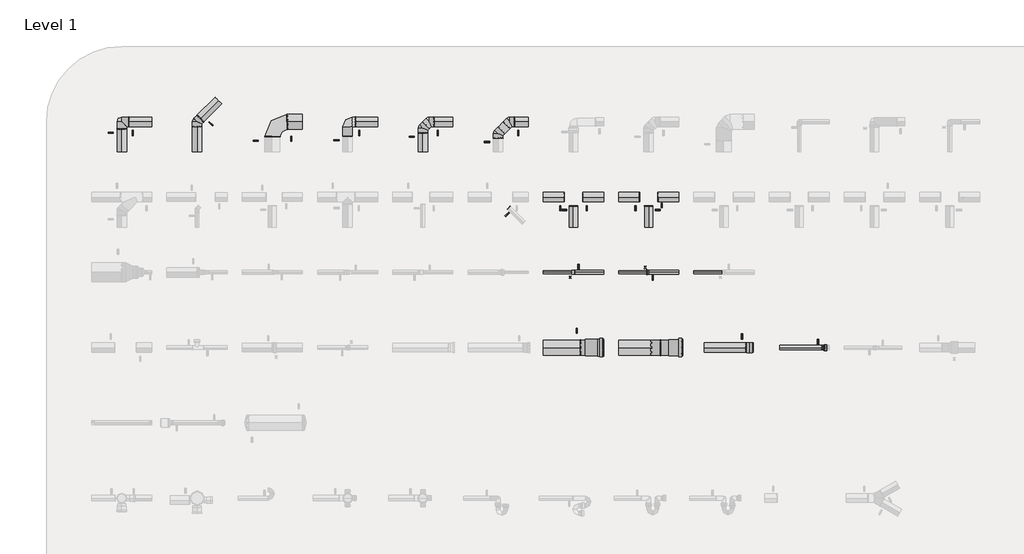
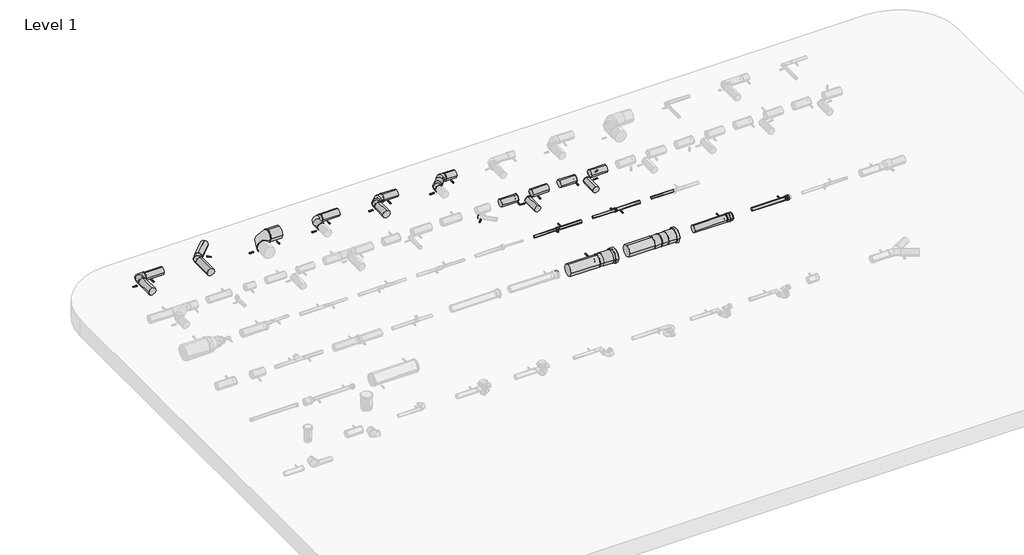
# One storey, part 4 of 6: 42 pipe fittings, 24 pipe segments.
"""IFC4 building model written with IfcOpenShell, lengths in millimetres."""

from ifc_helpers import new_model, si_unit, point, frame, frame_2d, origin, place, context, project, spatial, circle_curve, trimmed, segment, composite_curve, outline, extrude, transform, mapped, element, save
from components import pipe_fitting_c029aed5, type_2_pe80_8ce7701b, var_834311a2, var_c9dff895, var_6aed6b33, var_5b2d795d, var_edb43545, nested_do_not_use_acc8ecbe, nested_do_not_use_365d6919, nested_do_not_use_0367c6a2, nested_do_not_use_355ab53d, nested_do_not_use_e207d9e7, nested_do_not_use_0e8bf35e, nested_do_not_use_e36be62c, nested_do_not_use_2b7e7ef3, welded_7e5780db, welded_b2ff7ccb, welded_75b1cb19, welded_dc74d5dd, welded_ac007b25

model = new_model("IFC4")

# Units and contexts
model_context = context("Model", 3, world=origin())
ifc_project = project(units=[si_unit("LENGTHUNIT", "METRE", prefix="MILLI")], contexts=[model_context])

# Site, building, storey
site = spatial("IfcSite", under=ifc_project)
building = spatial("IfcBuilding", under=site)
storey = spatial("IfcBuildingStorey", under=building, Name="Level 1", Elevation=0.0)

# Pipe fittings
placement = place(None, origin())
pipe_fitting_shape = pipe_fitting_c029aed5(model_context)
element("IfcPipeFitting", 1, ObjectType="NLRS_52_PIF_UN_HDPE weld_Akatherm : ringseal or non-welded", at=placement, inside=storey, context=model_context, shape_type="MappedRepresentation", body=[
    mapped(pipe_fitting_shape, transform((8660.9781064, 18273.6274824, 200.0), x_axis=(-1.0, 0.0, 0.0), y_axis=(0.0, 1.0, 0.0), z_axis=(0.0, 0.0, -1.0))),
])
element("IfcPipeFitting", 2, ObjectType="NLRS_52_PIF_UN_HDPE weld_Akatherm : ringseal or non-welded", at=placement, inside=storey, context=model_context, shape_type="MappedRepresentation", body=[
    mapped(pipe_fitting_shape, transform((9657.7281064, 18273.6274824, 200.0), x_axis=(-1.0, 0.0, 0.0), y_axis=(0.0, -1.0, 0.0), z_axis=(0.0, 0.0, 1.0))),
])
type_2_pe80_shape = type_2_pe80_8ce7701b(model_context)
element("IfcPipeFitting", 3, ObjectType="NLRS_52_PIF_UN_HDPE bend long leg_Akatherm : Type 2 (PE80)", at=placement, inside=storey, context=model_context, shape_type="MappedRepresentation", body=[
    mapped(type_2_pe80_shape, transform((5659.9781064, 20273.6274824, 200.0), x_axis=(-1.0, 0.0, 0.0), y_axis=(0.0, -1.0, 0.0), z_axis=(0.0, 0.0, 1.0))),
])
var_shape = var_834311a2(model_context)
element("IfcPipeFitting", 4, ObjectType="NLRS_52_PIF_UN_HDPE 2x 45º bend_Akatherm : Var.", at=placement, inside=storey, context=model_context, shape_type="MappedRepresentation", body=[
    mapped(var_shape, transform((7659.9781064, 20273.6274824, 200.0), x_axis=(-1.0, 0.0, 0.0), y_axis=(0.0, -1.0, 0.0), z_axis=(0.0, 0.0, 1.0))),
])
var_2_shape = var_c9dff895(model_context)
element("IfcPipeFitting", 5, ObjectType="NLRS_52_PIF_UN_HDPE double flange bushing_Akatherm : Var.", at=placement, inside=storey, context=model_context, shape_type="MappedRepresentation", body=[
    mapped(var_2_shape, transform((10998.1544434, 17273.6274824, 200.0), x_axis=(1.0, 0.0, 0.0), y_axis=(0.0, 1.0, 0.0), z_axis=(0.0, 0.0, 1.0))),
])
var_3_shape = var_6aed6b33(model_context)
element("IfcPipeFitting", 6, ObjectType="NLRS_52_PIF_UN_HDPE expansion socket 200 with anchor point_Akatherm : Var.", at=placement, inside=storey, context=model_context, shape_type="MappedRepresentation", body=[
    mapped(var_3_shape, transform((9787.9781064, 17273.6274824, 200.0), x_axis=(1.0, 0.0, 0.0), y_axis=(0.0, 1.0, 0.0), z_axis=(0.0, 0.0, 1.0))),
])
var_4_shape = var_5b2d795d(model_context)
element("IfcPipeFitting", 7, ObjectType="NLRS_52_PIF_UN_HDPE expansion socket_Akatherm : Var.", at=placement, inside=storey, context=model_context, shape_type="MappedRepresentation", body=[
    mapped(var_4_shape, transform((8793.6781064, 17273.6274824, 200.0), x_axis=(1.0, 0.0, 0.0), y_axis=(0.0, 1.0, 0.0), z_axis=(0.0, 0.0, 1.0))),
])
var_5_shape = var_edb43545(model_context)
element("IfcPipeFitting", 8, ObjectType="NLRS_52_PIF_UN_HDPE urinal connector socket_Akatherm : Var.", at=placement, inside=storey, context=model_context, shape_type="MappedRepresentation", body=[
    mapped(var_5_shape, transform((9660.9781064, 18273.6274824, 200.0), x_axis=(1.0, 0.0, 0.0), y_axis=(0.0, 1.0, 0.0), z_axis=(0.0, 0.0, 1.0))),
])
nested_do_not_use_shape = nested_do_not_use_acc8ecbe(model_context)
element("IfcPipeFitting", 9, ObjectType="NLRS_52_PIF_UN_HDPE bend for bend assembly -SH_Akatherm : nested, do not use", at=placement, inside=storey, context=model_context, shape_type="MappedRepresentation", body=[
    mapped(nested_do_not_use_shape, transform((4659.9781064, 20273.6274824, 200.0), x_axis=(-1.0, 0.0, 0.0), y_axis=(0.0, -1.0, 0.0), z_axis=(0.0, 0.0, 1.0))),
])
nested_do_not_use_2_shape = nested_do_not_use_365d6919(model_context)
element("IfcPipeFitting", 10, ObjectType="NLRS_52_PIF_UN_HDPE elbow for bend assembly -SH_Akatherm : nested, do not use", at=placement, inside=storey, context=model_context, shape_type="MappedRepresentation", body=[
    mapped(nested_do_not_use_2_shape, transform((2659.9781064, 20273.6274824, 200.0), x_axis=(-1.0, 0.0, 0.0), y_axis=(0.0, -1.0, 0.0), z_axis=(0.0, 0.0, 1.0))),
])
nested_do_not_use_3_shape = nested_do_not_use_0367c6a2(model_context)
element("IfcPipeFitting", 11, ObjectType="NLRS_52_PIF_UN_HDPE elbow for bend assembly -SH_Akatherm : nested, do not use", at=placement, inside=storey, context=model_context, shape_type="MappedRepresentation", body=[
    mapped(nested_do_not_use_3_shape, transform((3659.9781064, 20273.6274824, 200.0), x_axis=(-0.7071067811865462, -0.7071067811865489, 0.0), y_axis=(0.7071067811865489, -0.7071067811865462, 0.0), z_axis=(0.0, 0.0, 1.0))),
])
element("IfcPipeFitting", 12, ObjectType="NLRS_52_PIF_UN_HDPE elbow for bend assembly -SH_Akatherm : nested, do not use", at=placement, inside=storey, context=model_context, shape_type="MappedRepresentation", body=[
    mapped(nested_do_not_use_3_shape, transform((6745.962291, 20273.6274824, 200.0), x_axis=(-1.0, 0.0, 0.0), y_axis=(0.0, -1.0, 0.0), z_axis=(0.0, 0.0, 1.0))),
])
element("IfcPipeFitting", 13, ObjectType="NLRS_52_PIF_UN_HDPE elbow for bend assembly -SH_Akatherm : nested, do not use", at=placement, inside=storey, context=model_context, shape_type="MappedRepresentation", body=[
    mapped(nested_do_not_use_3_shape, transform((7816.6729691, 20273.6274824, 200.0), x_axis=(-1.0, 0.0, 0.0), y_axis=(0.0, -1.0, 0.0), z_axis=(0.0, 0.0, 1.0))),
])
nested_do_not_use_4_shape = nested_do_not_use_355ab53d(model_context)
element("IfcPipeFitting", 14, ObjectType="NLRS_52_PIF_UN_HDPE elbow for bend assembly -SH_Akatherm : nested, do not use", at=placement, inside=storey, context=model_context, shape_type="MappedRepresentation", body=[
    mapped(nested_do_not_use_4_shape, transform((6659.9781064, 20187.6432978, 200.0), x_axis=(0.0, 1.0, 0.0), y_axis=(-1.0, 0.0, 0.0), z_axis=(0.0, 0.0, 1.0))),
])
element("IfcPipeFitting", 15, ObjectType="NLRS_52_PIF_UN_HDPE elbow for bend assembly -SH_Akatherm : nested, do not use", at=placement, inside=storey, context=model_context, shape_type="MappedRepresentation", body=[
    mapped(nested_do_not_use_4_shape, transform((7659.9781064, 20116.9326197, 200.0), x_axis=(0.0, 1.0, 0.0), y_axis=(-1.0, 0.0, 0.0), z_axis=(0.0, 0.0, 1.0))),
])
nested_do_not_use_5_shape = nested_do_not_use_e207d9e7(model_context)
element("IfcPipeFitting", 16, ObjectType="NLRS_52_PIF_UN_HDPE protective cap for plugin socket -SH_Akatherm : nested, do not use", at=placement, inside=storey, context=model_context, shape_type="MappedRepresentation", body=[
    mapped(nested_do_not_use_5_shape, transform((8077.9781064, 17273.6274824, 200.0), x_axis=(1.0, 0.0, 0.0), y_axis=(0.0, 1.0, 0.0), z_axis=(0.0, 0.0, 1.0))),
])
nested_do_not_use_6_shape = nested_do_not_use_0e8bf35e(model_context)
element("IfcPipeFitting", 17, ObjectType="NLRS_52_PIF_UN_HDPE rubber sleeve -SH_Akatherm : nested, do not use", at=placement, inside=storey, context=model_context, shape_type="MappedRepresentation", body=[
    mapped(nested_do_not_use_6_shape, transform((8648.9781064, 18273.6274824, 200.0), x_axis=(-1.0, 0.0, 0.0), y_axis=(0.0, -1.0, 0.0), z_axis=(0.0, 0.0, 1.0))),
])
nested_do_not_use_7_shape = nested_do_not_use_e36be62c(model_context)
element("IfcPipeFitting", 18, ObjectType="NLRS_52_PIF_UN_HDPE screw coupler -SH_Akatherm : nested, do not use", at=placement, inside=storey, context=model_context, shape_type="MappedRepresentation", body=[
    mapped(nested_do_not_use_7_shape, transform((11992.6544434, 17273.6274824, 200.0), x_axis=(1.0, 0.0, 0.0), y_axis=(0.0, 1.0, 0.0), z_axis=(0.0, 0.0, 1.0))),
])
nested_do_not_use_8_shape = nested_do_not_use_2b7e7ef3(model_context)
element("IfcPipeFitting", 19, ObjectType="NLRS_52_PIF_UN_HDPE trap connecting socket -SH_Akatherm : nested, do not use", at=placement, inside=storey, context=model_context, shape_type="MappedRepresentation", body=[
    mapped(nested_do_not_use_8_shape, transform((8659.9781064, 18273.6274824, 200.0), x_axis=(1.0, 0.0, 0.0), y_axis=(0.0, 1.0, 0.0), z_axis=(0.0, 0.0, 1.0))),
])
welded_shape = welded_7e5780db(model_context)
element("IfcPipeFitting", 20, ObjectType="NLRS_52_PIF_UN_HDPE weld_Akatherm : welded", at=placement, inside=storey, context=model_context, shape_type="MappedRepresentation", body=[
    mapped(welded_shape, transform((2755.7781064, 20273.6274824, 200.0), x_axis=(1.0, 0.0, 0.0), y_axis=(0.0, 1.0, 0.0), z_axis=(0.0, 0.0, 1.0))),
])
element("IfcPipeFitting", 21, ObjectType="NLRS_52_PIF_UN_HDPE weld_Akatherm : welded", at=placement, inside=storey, context=model_context, shape_type="MappedRepresentation", body=[
    mapped(welded_shape, transform((2659.9781064, 20177.8274824, 200.0), x_axis=(0.0, -1.0, 0.0), y_axis=(1.0, 0.0, 0.0), z_axis=(0.0, 0.0, 1.0))),
])
element("IfcPipeFitting", 22, ObjectType="NLRS_52_PIF_UN_HDPE weld_Akatherm : welded", at=placement, inside=storey, context=model_context, shape_type="MappedRepresentation", body=[
    mapped(welded_shape, transform((6806.762291, 20273.6274824, 200.0), x_axis=(1.0, 0.0, 0.0), y_axis=(0.0, 1.0, 0.0), z_axis=(0.0, 0.0, 1.0))),
])
element("IfcPipeFitting", 23, ObjectType="NLRS_52_PIF_UN_HDPE weld_Akatherm : welded", at=placement, inside=storey, context=model_context, shape_type="MappedRepresentation", body=[
    mapped(welded_shape, transform((6659.9781064, 20126.8432978, 200.0), x_axis=(0.0, -1.0, 0.0), y_axis=(1.0, 0.0, 0.0), z_axis=(0.0, 0.0, 1.0))),
])
element("IfcPipeFitting", 24, ObjectType="NLRS_52_PIF_UN_HDPE weld_Akatherm : welded", at=placement, inside=storey, context=model_context, shape_type="MappedRepresentation", body=[
    mapped(welded_shape, transform((7877.4729691, 20273.6274824, 200.0), x_axis=(1.0, 0.0, 0.0), y_axis=(0.0, 1.0, 0.0), z_axis=(0.0, 0.0, 1.0))),
])
element("IfcPipeFitting", 25, ObjectType="NLRS_52_PIF_UN_HDPE weld_Akatherm : welded", at=placement, inside=storey, context=model_context, shape_type="MappedRepresentation", body=[
    mapped(welded_shape, transform((7659.9781064, 20056.1326197, 200.0), x_axis=(0.0, -1.0, 0.0), y_axis=(1.0, 0.0, 0.0), z_axis=(0.0, 0.0, 1.0))),
])
element("IfcPipeFitting", 26, ObjectType="NLRS_52_PIF_UN_HDPE weld_Akatherm : welded", at=placement, inside=storey, context=model_context, shape_type="MappedRepresentation", body=[
    mapped(welded_shape, transform((5765.7781064, 20273.6274824, 200.0), x_axis=(1.0, 0.0, 0.0), y_axis=(0.0, 1.0, 0.0), z_axis=(0.0, 0.0, 1.0))),
])
element("IfcPipeFitting", 27, ObjectType="NLRS_52_PIF_UN_HDPE weld_Akatherm : welded", at=placement, inside=storey, context=model_context, shape_type="MappedRepresentation", body=[
    mapped(welded_shape, transform((5659.9781064, 20077.8274824, 200.0), x_axis=(0.0, -1.0, 0.0), y_axis=(1.0, 0.0, 0.0), z_axis=(0.0, 0.0, 1.0))),
])
element("IfcPipeFitting", 28, ObjectType="NLRS_52_PIF_UN_HDPE weld_Akatherm : welded", at=placement, inside=storey, context=model_context, shape_type="MappedRepresentation", body=[
    mapped(welded_shape, transform((8785.7781064, 19273.6274824, 200.0), x_axis=(1.0, 0.0, 0.0), y_axis=(0.0, 1.0, 0.0), z_axis=(0.0, 0.0, 1.0))),
])
element("IfcPipeFitting", 29, ObjectType="NLRS_52_PIF_UN_HDPE weld_Akatherm : welded", at=placement, inside=storey, context=model_context, shape_type="MappedRepresentation", body=[
    mapped(welded_shape, transform((8534.1781064, 19273.6274824, 200.0), x_axis=(-1.0, 0.0, 0.0), y_axis=(0.0, 1.0, 0.0), z_axis=(0.0, 0.0, -1.0))),
])
element("IfcPipeFitting", 30, ObjectType="NLRS_52_PIF_UN_HDPE weld_Akatherm : welded", at=placement, inside=storey, context=model_context, shape_type="MappedRepresentation", body=[
    mapped(welded_shape, transform((9534.1781064, 19273.6274824, 200.0), x_axis=(-1.0, 0.0, 0.0), y_axis=(0.0, 1.0, 0.0), z_axis=(0.0, 0.0, -1.0))),
])
element("IfcPipeFitting", 31, ObjectType="NLRS_52_PIF_UN_HDPE weld_Akatherm : welded", at=placement, inside=storey, context=model_context, shape_type="MappedRepresentation", body=[
    mapped(welded_shape, transform((9785.7781064, 19273.6274824, 200.0), x_axis=(1.0, 0.0, 0.0), y_axis=(0.0, 0.7071067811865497, -0.7071067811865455), z_axis=(0.0, 0.7071067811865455, 0.7071067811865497))),
])
element("IfcPipeFitting", 32, ObjectType="NLRS_52_PIF_UN_HDPE weld_Akatherm : welded", at=placement, inside=storey, context=model_context, shape_type="MappedRepresentation", body=[
    mapped(welded_shape, transform((10950.6044434, 17273.6274824, 200.0), x_axis=(-1.0, 0.0, 0.0), y_axis=(0.0, -1.0, 0.0), z_axis=(0.0, 0.0, 1.0))),
])
element("IfcPipeFitting", 33, ObjectType="NLRS_52_PIF_UN_HDPE weld_Akatherm : welded", at=placement, inside=storey, context=model_context, shape_type="MappedRepresentation", body=[
    mapped(welded_shape, transform((3702.9701987, 20316.6195747, 200.0), x_axis=(0.7071067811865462, 0.7071067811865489, 0.0), y_axis=(-0.7071067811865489, 0.7071067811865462, 0.0), z_axis=(0.0, 0.0, 1.0))),
])
welded_2_shape = welded_b2ff7ccb(model_context)
element("IfcPipeFitting", 34, ObjectType="NLRS_52_PIF_UN_HDPE weld_Akatherm : welded", at=placement, inside=storey, context=model_context, shape_type="MappedRepresentation", body=[
    mapped(welded_2_shape, transform((4859.2781064, 20273.6274824, 200.0), x_axis=(1.0, 0.0, 0.0), y_axis=(0.0, 1.0, 0.0), z_axis=(0.0, 0.0, 1.0))),
])
element("IfcPipeFitting", 35, ObjectType="NLRS_52_PIF_UN_HDPE weld_Akatherm : welded", at=placement, inside=storey, context=model_context, shape_type="MappedRepresentation", body=[
    mapped(welded_2_shape, transform((4659.9781064, 20074.3274824, 200.0), x_axis=(0.0, -1.0, 0.0), y_axis=(1.0, 0.0, 0.0), z_axis=(0.0, 0.0, 1.0))),
])
element("IfcPipeFitting", 36, ObjectType="NLRS_52_PIF_UN_HDPE weld_Akatherm : welded", at=placement, inside=storey, context=model_context, shape_type="MappedRepresentation", body=[
    mapped(welded_2_shape, transform((8753.1781064, 17273.6274824, 200.0), x_axis=(-1.0, 0.0, 0.0), y_axis=(0.0, -1.0, 0.0), z_axis=(0.0, 0.0, 1.0))),
])
welded_3_shape = welded_75b1cb19(model_context)
element("IfcPipeFitting", 37, ObjectType="NLRS_52_PIF_UN_HDPE weld_Akatherm : welded", at=placement, inside=storey, context=model_context, shape_type="MappedRepresentation", body=[
    mapped(welded_3_shape, transform((8677.2781064, 18273.6274824, 200.0), x_axis=(1.0, 0.0, 0.0), y_axis=(0.0, -1.0, 0.0), z_axis=(0.0, 0.0, -1.0))),
])
element("IfcPipeFitting", 38, ObjectType="NLRS_52_PIF_UN_HDPE weld_Akatherm : welded", at=placement, inside=storey, context=model_context, shape_type="MappedRepresentation", body=[
    mapped(welded_3_shape, transform((9662.5281064, 18273.6274824, 200.0), x_axis=(1.0, 0.0, 0.0), y_axis=(0.0, 1.0, 0.0), z_axis=(0.0, 0.0, 1.0))),
])
welded_4_shape = welded_dc74d5dd(model_context)
element("IfcPipeFitting", 39, ObjectType="NLRS_52_PIF_UN_HDPE weld_Akatherm : welded", at=placement, inside=storey, context=model_context, shape_type="MappedRepresentation", body=[
    mapped(welded_4_shape, transform((7800.1973811, 19133.4082077, 200.0), x_axis=(0.7071067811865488, -0.7071067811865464, 0.0), y_axis=(0.7071067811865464, 0.7071067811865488, 0.0), z_axis=(0.0, 0.0, 1.0))),
])
element("IfcPipeFitting", 40, ObjectType="NLRS_52_PIF_UN_HDPE weld_Akatherm : welded", at=placement, inside=storey, context=model_context, shape_type="MappedRepresentation", body=[
    mapped(welded_4_shape, transform((11958.8544434, 17273.6274824, 200.0), x_axis=(-1.0, 0.0, 0.0), y_axis=(0.0, -1.0, 0.0), z_axis=(0.0, 0.0, 1.0))),
])
welded_5_shape = welded_ac007b25(model_context)
element("IfcPipeFitting", 41, ObjectType="NLRS_52_PIF_UN_HDPE weld_Akatherm : welded", at=placement, inside=storey, context=model_context, shape_type="MappedRepresentation", body=[
    mapped(welded_5_shape, transform((8659.9781064, 19152.3274824, 200.0), x_axis=(0.0, -1.0, 0.0), y_axis=(1.0, 0.0, 0.0), z_axis=(0.0, 0.0, 1.0))),
])
element("IfcPipeFitting", 42, ObjectType="NLRS_52_PIF_UN_HDPE weld_Akatherm : welded", at=placement, inside=storey, context=model_context, shape_type="MappedRepresentation", body=[
    mapped(welded_5_shape, transform((9659.9781064, 19152.3274824, 200.0), x_axis=(0.0, -1.0, 0.0), y_axis=(-1.0, 0.0, 0.0), z_axis=(0.0, 0.0, -1.0))),
])

# Pipe segments
element("IfcPipeSegment", 43, ObjectType="NLRS_52_PI_HDPE buis (DN)_Akatherm", at=placement, inside=storey, context=model_context, shape_type="SweptSolid", body=[
    extrude(outline(composite_curve([segment(trimmed(circle_curve(frame_2d((200.0, 2659.9781064)), 62.5), [point((200.0, 2597.4781064))], [point((137.5, 2659.9781064))], False, "CARTESIAN"), True, "CONTINUOUS"), segment(trimmed(circle_curve(frame_2d((200.0, 2659.9781064)), 62.5), [point((137.5, 2659.9781064))], [point((200.0, 2722.4781064))], False, "CARTESIAN"), True, "CONTINUOUS"), segment(trimmed(circle_curve(frame_2d((200.0, 2659.9781064)), 62.5), [point((200.0, 2722.4781064))], [point((262.5, 2659.9781064))], False, "CARTESIAN"), True, "CONTINUOUS"), segment(trimmed(circle_curve(frame_2d((200.0, 2659.9781064)), 62.5), [point((262.5, 2659.9781064))], [point((200.0, 2597.4781064))], False, "CARTESIAN"), True, "CONTINUOUS")], self_intersect=False)), frame((0.0, 19873.6274824, 0.0), z_axis=(0.0, 1.0, 0.0), x_axis=(0.0, 0.0, 1.0)), (0.0, 0.0, 1.0), 308.4),
])
element("IfcPipeSegment", 44, ObjectType="NLRS_52_PI_HDPE buis (DN)_Akatherm", at=placement, inside=storey, context=model_context, shape_type="SweptSolid", body=[
    extrude(outline(composite_curve([segment(trimmed(circle_curve(frame_2d((20273.6274824, 200.0)), 62.5), [point((20211.1274824, 200.0))], [point((20273.6274824, 262.5))], False, "CARTESIAN"), True, "CONTINUOUS"), segment(trimmed(circle_curve(frame_2d((20273.6274824, 200.0)), 62.5), [point((20273.6274824, 262.5))], [point((20336.1274824, 200.0))], False, "CARTESIAN"), True, "CONTINUOUS"), segment(trimmed(circle_curve(frame_2d((20273.6274824, 200.0)), 62.5), [point((20336.1274824, 200.0))], [point((20273.6274824, 137.5))], False, "CARTESIAN"), True, "CONTINUOUS"), segment(trimmed(circle_curve(frame_2d((20273.6274824, 200.0)), 62.5), [point((20273.6274824, 137.5))], [point((20211.1274824, 200.0))], False, "CARTESIAN"), True, "CONTINUOUS")], self_intersect=False)), frame((2751.5781064, 0.0, 0.0), z_axis=(1.0, 0.0, 0.0), x_axis=(0.0, 1.0, 0.0)), (0.0, 0.0, 1.0), 308.4),
])
element("IfcPipeSegment", 45, ObjectType="NLRS_52_PI_HDPE buis (DN)_Akatherm", at=placement, inside=storey, context=model_context, shape_type="SweptSolid", body=[
    extrude(outline(composite_curve([segment(trimmed(circle_curve(frame_2d((200.0, 3659.9781064)), 62.5), [point((200.0, 3597.4781064))], [point((137.5, 3659.9781064))], False, "CARTESIAN"), True, "CONTINUOUS"), segment(trimmed(circle_curve(frame_2d((200.0, 3659.9781064)), 62.5), [point((137.5, 3659.9781064))], [point((200.0, 3722.4781064))], False, "CARTESIAN"), True, "CONTINUOUS"), segment(trimmed(circle_curve(frame_2d((200.0, 3659.9781064)), 62.5), [point((200.0, 3722.4781064))], [point((262.5, 3659.9781064))], False, "CARTESIAN"), True, "CONTINUOUS"), segment(trimmed(circle_curve(frame_2d((200.0, 3659.9781064)), 62.5), [point((262.5, 3659.9781064))], [point((200.0, 3597.4781064))], False, "CARTESIAN"), True, "CONTINUOUS")], self_intersect=False)), frame((0.0, 19873.6274824, 0.0), z_axis=(0.0, 1.0, 0.0), x_axis=(0.0, 0.0, 1.0)), (0.0, 0.0, 1.0), 342.7),
])
element("IfcPipeSegment", 46, ObjectType="NLRS_52_PI_HDPE buis (DN)_Akatherm", at=placement, inside=storey, context=model_context, shape_type="SweptSolid", body=[
    extrude(outline(composite_curve([segment(trimmed(circle_curve(frame_2d((0.0, 62.5)), 62.5), [point((62.5, 62.5))], [point((0.0, 0.0))], False, "CARTESIAN"), True, "CONTINUOUS"), segment(trimmed(circle_curve(frame_2d((0.0, 62.5)), 62.5), [point((0.0, 0.0))], [point((-62.5, 62.5))], False, "CARTESIAN"), True, "CONTINUOUS"), segment(trimmed(circle_curve(frame_2d((0.0, 62.5)), 62.5), [point((-62.5, 62.5))], [point((0.0, 125.0))], False, "CARTESIAN"), True, "CONTINUOUS"), segment(trimmed(circle_curve(frame_2d((0.0, 62.5)), 62.5), [point((0.0, 125.0))], [point((62.5, 62.5))], False, "CARTESIAN"), True, "CONTINUOUS")], self_intersect=False)), frame((3700.0003502, 20313.6497262, 262.5), z_axis=(0.7071067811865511, 0.707106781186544, 0.0), x_axis=(0.707106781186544, -0.7071067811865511, 0.0)), (0.0, 0.0, 1.0), 343.4),
])
element("IfcPipeSegment", 47, ObjectType="NLRS_52_PI_HDPE buis (DN)_Akatherm", at=placement, inside=storey, context=model_context, shape_type="SweptSolid", body=[
    extrude(outline(composite_curve([segment(trimmed(circle_curve(frame_2d((20273.6274824, 200.0)), 100.0), [point((20173.6274824, 200.0))], [point((20273.6274824, 300.0))], False, "CARTESIAN"), True, "CONTINUOUS"), segment(trimmed(circle_curve(frame_2d((20273.6274824, 200.0)), 100.0), [point((20273.6274824, 300.0))], [point((20373.6274824, 200.0))], False, "CARTESIAN"), True, "CONTINUOUS"), segment(trimmed(circle_curve(frame_2d((20273.6274824, 200.0)), 100.0), [point((20373.6274824, 200.0))], [point((20273.6274824, 100.0))], False, "CARTESIAN"), True, "CONTINUOUS"), segment(trimmed(circle_curve(frame_2d((20273.6274824, 200.0)), 100.0), [point((20273.6274824, 100.0))], [point((20173.6274824, 200.0))], False, "CARTESIAN"), True, "CONTINUOUS")], self_intersect=False)), frame((4853.5781064, 0.0, 0.0), z_axis=(1.0, 0.0, 0.0), x_axis=(0.0, 1.0, 0.0)), (0.0, 0.0, 1.0), 206.4),
])
element("IfcPipeSegment", 48, ObjectType="NLRS_52_PI_HDPE buis (DN)_Akatherm", at=placement, inside=storey, context=model_context, shape_type="SweptSolid", body=[
    extrude(outline(composite_curve([segment(trimmed(circle_curve(frame_2d((20273.6274824, 200.0)), 62.5), [point((20211.1274824, 200.0))], [point((20273.6274824, 262.5))], False, "CARTESIAN"), True, "CONTINUOUS"), segment(trimmed(circle_curve(frame_2d((20273.6274824, 200.0)), 62.5), [point((20273.6274824, 262.5))], [point((20336.1274824, 200.0))], False, "CARTESIAN"), True, "CONTINUOUS"), segment(trimmed(circle_curve(frame_2d((20273.6274824, 200.0)), 62.5), [point((20336.1274824, 200.0))], [point((20273.6274824, 137.5))], False, "CARTESIAN"), True, "CONTINUOUS"), segment(trimmed(circle_curve(frame_2d((20273.6274824, 200.0)), 62.5), [point((20273.6274824, 137.5))], [point((20211.1274824, 200.0))], False, "CARTESIAN"), True, "CONTINUOUS")], self_intersect=False)), frame((5761.5781064, 0.0, 0.0), z_axis=(1.0, 0.0, 0.0), x_axis=(0.0, 1.0, 0.0)), (0.0, 0.0, 1.0), 298.4),
])
element("IfcPipeSegment", 49, ObjectType="NLRS_52_PI_HDPE buis (DN)_Akatherm", at=placement, inside=storey, context=model_context, shape_type="SweptSolid", body=[
    extrude(outline(composite_curve([segment(trimmed(circle_curve(frame_2d((200.0, 6659.9781064)), 62.5), [point((200.0, 6597.4781064))], [point((137.5, 6659.9781064))], False, "CARTESIAN"), True, "CONTINUOUS"), segment(trimmed(circle_curve(frame_2d((200.0, 6659.9781064)), 62.5), [point((137.5, 6659.9781064))], [point((200.0, 6722.4781064))], False, "CARTESIAN"), True, "CONTINUOUS"), segment(trimmed(circle_curve(frame_2d((200.0, 6659.9781064)), 62.5), [point((200.0, 6722.4781064))], [point((262.5, 6659.9781064))], False, "CARTESIAN"), True, "CONTINUOUS"), segment(trimmed(circle_curve(frame_2d((200.0, 6659.9781064)), 62.5), [point((262.5, 6659.9781064))], [point((200.0, 6597.4781064))], False, "CARTESIAN"), True, "CONTINUOUS")], self_intersect=False)), frame((0.0, 19873.6274824, 0.0), z_axis=(0.0, 1.0, 0.0), x_axis=(0.0, 0.0, 1.0)), (0.0, 0.0, 1.0), 257.4158154),
])
element("IfcPipeSegment", 50, ObjectType="NLRS_52_PI_HDPE buis (DN)_Akatherm", at=placement, inside=storey, context=model_context, shape_type="SweptSolid", body=[
    extrude(outline(composite_curve([segment(trimmed(circle_curve(frame_2d((20273.6274824, 200.0)), 62.5), [point((20211.1274824, 200.0))], [point((20273.6274824, 262.5))], False, "CARTESIAN"), True, "CONTINUOUS"), segment(trimmed(circle_curve(frame_2d((20273.6274824, 200.0)), 62.5), [point((20273.6274824, 262.5))], [point((20336.1274824, 200.0))], False, "CARTESIAN"), True, "CONTINUOUS"), segment(trimmed(circle_curve(frame_2d((20273.6274824, 200.0)), 62.5), [point((20336.1274824, 200.0))], [point((20273.6274824, 137.5))], False, "CARTESIAN"), True, "CONTINUOUS"), segment(trimmed(circle_curve(frame_2d((20273.6274824, 200.0)), 62.5), [point((20273.6274824, 137.5))], [point((20211.1274824, 200.0))], False, "CARTESIAN"), True, "CONTINUOUS")], self_intersect=False)), frame((6802.562291, 0.0, 0.0), z_axis=(1.0, 0.0, 0.0), x_axis=(0.0, 1.0, 0.0)), (0.0, 0.0, 1.0), 257.4158154),
])
element("IfcPipeSegment", 51, ObjectType="NLRS_52_PI_HDPE buis (DN)_Akatherm", at=placement, inside=storey, context=model_context, shape_type="SweptSolid", body=[
    extrude(outline(composite_curve([segment(trimmed(circle_curve(frame_2d((20273.6274824, 200.0)), 62.5), [point((20211.1274824, 200.0))], [point((20273.6274824, 262.5))], False, "CARTESIAN"), True, "CONTINUOUS"), segment(trimmed(circle_curve(frame_2d((20273.6274824, 200.0)), 62.5), [point((20273.6274824, 262.5))], [point((20336.1274824, 200.0))], False, "CARTESIAN"), True, "CONTINUOUS"), segment(trimmed(circle_curve(frame_2d((20273.6274824, 200.0)), 62.5), [point((20336.1274824, 200.0))], [point((20273.6274824, 137.5))], False, "CARTESIAN"), True, "CONTINUOUS"), segment(trimmed(circle_curve(frame_2d((20273.6274824, 200.0)), 62.5), [point((20273.6274824, 137.5))], [point((20211.1274824, 200.0))], False, "CARTESIAN"), True, "CONTINUOUS")], self_intersect=False)), frame((7873.2729691, 0.0, 0.0), z_axis=(1.0, 0.0, 0.0), x_axis=(0.0, 1.0, 0.0)), (0.0, 0.0, 1.0), 186.7051373),
])
element("IfcPipeSegment", 52, ObjectType="NLRS_52_PI_HDPE buis (DN)_Akatherm", at=placement, inside=storey, context=model_context, shape_type="SweptSolid", body=[
    extrude(outline(composite_curve([segment(trimmed(circle_curve(frame_2d((200.0, 8659.9781064)), 55.0), [point((200.0, 8604.9781064))], [point((145.0, 8659.9781064))], False, "CARTESIAN"), True, "CONTINUOUS"), segment(trimmed(circle_curve(frame_2d((200.0, 8659.9781064)), 55.0), [point((145.0, 8659.9781064))], [point((200.0, 8714.9781064))], False, "CARTESIAN"), True, "CONTINUOUS"), segment(trimmed(circle_curve(frame_2d((200.0, 8659.9781064)), 55.0), [point((200.0, 8714.9781064))], [point((255.0, 8659.9781064))], False, "CARTESIAN"), True, "CONTINUOUS"), segment(trimmed(circle_curve(frame_2d((200.0, 8659.9781064)), 55.0), [point((255.0, 8659.9781064))], [point((200.0, 8604.9781064))], False, "CARTESIAN"), True, "CONTINUOUS")], self_intersect=False)), frame((0.0, 18873.6274824, 0.0), z_axis=(0.0, 1.0, 0.0), x_axis=(0.0, 0.0, 1.0)), (0.0, 0.0, 1.0), 282.4),
])
element("IfcPipeSegment", 53, ObjectType="NLRS_52_PI_HDPE buis (DN)_Akatherm", at=placement, inside=storey, context=model_context, shape_type="SweptSolid", body=[
    extrude(outline(composite_curve([segment(trimmed(circle_curve(frame_2d((19273.6274824, 200.0)), 62.5), [point((19211.1274824, 200.0))], [point((19273.6274824, 262.5))], False, "CARTESIAN"), True, "CONTINUOUS"), segment(trimmed(circle_curve(frame_2d((19273.6274824, 200.0)), 62.5), [point((19273.6274824, 262.5))], [point((19336.1274824, 200.0))], False, "CARTESIAN"), True, "CONTINUOUS"), segment(trimmed(circle_curve(frame_2d((19273.6274824, 200.0)), 62.5), [point((19336.1274824, 200.0))], [point((19273.6274824, 137.5))], False, "CARTESIAN"), True, "CONTINUOUS"), segment(trimmed(circle_curve(frame_2d((19273.6274824, 200.0)), 62.5), [point((19273.6274824, 137.5))], [point((19211.1274824, 200.0))], False, "CARTESIAN"), True, "CONTINUOUS")], self_intersect=False)), frame((8781.5781064, 0.0, 0.0), z_axis=(1.0, 0.0, 0.0), x_axis=(0.0, 1.0, 0.0)), (0.0, 0.0, 1.0), 278.4),
])
element("IfcPipeSegment", 54, ObjectType="NLRS_52_PI_HDPE buis (DN)_Akatherm", at=placement, inside=storey, context=model_context, shape_type="SweptSolid", body=[
    extrude(outline(composite_curve([segment(trimmed(circle_curve(frame_2d((19273.6274824, 200.0)), 62.5), [point((19211.1274824, 200.0))], [point((19273.6274824, 262.5))], False, "CARTESIAN"), True, "CONTINUOUS"), segment(trimmed(circle_curve(frame_2d((19273.6274824, 200.0)), 62.5), [point((19273.6274824, 262.5))], [point((19336.1274824, 200.0))], False, "CARTESIAN"), True, "CONTINUOUS"), segment(trimmed(circle_curve(frame_2d((19273.6274824, 200.0)), 62.5), [point((19336.1274824, 200.0))], [point((19273.6274824, 137.5))], False, "CARTESIAN"), True, "CONTINUOUS"), segment(trimmed(circle_curve(frame_2d((19273.6274824, 200.0)), 62.5), [point((19273.6274824, 137.5))], [point((19211.1274824, 200.0))], False, "CARTESIAN"), True, "CONTINUOUS")], self_intersect=False)), frame((8259.9781064, 0.0, 0.0), z_axis=(1.0, 0.0, 0.0), x_axis=(0.0, 1.0, 0.0)), (0.0, 0.0, 1.0), 278.4),
])
element("IfcPipeSegment", 55, ObjectType="NLRS_52_PI_HDPE buis (DN)_Akatherm", at=placement, inside=storey, context=model_context, shape_type="SweptSolid", body=[
    extrude(outline(composite_curve([segment(trimmed(circle_curve(frame_2d((200.0, 9659.9781064)), 55.0), [point((200.0, 9604.9781064))], [point((145.0, 9659.9781064))], False, "CARTESIAN"), True, "CONTINUOUS"), segment(trimmed(circle_curve(frame_2d((200.0, 9659.9781064)), 55.0), [point((145.0, 9659.9781064))], [point((200.0, 9714.9781064))], False, "CARTESIAN"), True, "CONTINUOUS"), segment(trimmed(circle_curve(frame_2d((200.0, 9659.9781064)), 55.0), [point((200.0, 9714.9781064))], [point((255.0, 9659.9781064))], False, "CARTESIAN"), True, "CONTINUOUS"), segment(trimmed(circle_curve(frame_2d((200.0, 9659.9781064)), 55.0), [point((255.0, 9659.9781064))], [point((200.0, 9604.9781064))], False, "CARTESIAN"), True, "CONTINUOUS")], self_intersect=False)), frame((0.0, 18873.6274824, 0.0), z_axis=(0.0, 1.0, 0.0), x_axis=(0.0, 0.0, 1.0)), (0.0, 0.0, 1.0), 282.4),
])
element("IfcPipeSegment", 56, ObjectType="NLRS_52_PI_HDPE buis (DN)_Akatherm", at=placement, inside=storey, context=model_context, shape_type="SweptSolid", body=[
    extrude(outline(composite_curve([segment(trimmed(circle_curve(frame_2d((19273.6274824, 200.0)), 62.5), [point((19211.1274824, 200.0))], [point((19273.6274824, 262.5))], False, "CARTESIAN"), True, "CONTINUOUS"), segment(trimmed(circle_curve(frame_2d((19273.6274824, 200.0)), 62.5), [point((19273.6274824, 262.5))], [point((19336.1274824, 200.0))], False, "CARTESIAN"), True, "CONTINUOUS"), segment(trimmed(circle_curve(frame_2d((19273.6274824, 200.0)), 62.5), [point((19336.1274824, 200.0))], [point((19273.6274824, 137.5))], False, "CARTESIAN"), True, "CONTINUOUS"), segment(trimmed(circle_curve(frame_2d((19273.6274824, 200.0)), 62.5), [point((19273.6274824, 137.5))], [point((19211.1274824, 200.0))], False, "CARTESIAN"), True, "CONTINUOUS")], self_intersect=False)), frame((9781.5781064, 0.0, 0.0), z_axis=(1.0, 0.0, 0.0), x_axis=(0.0, 1.0, 0.0)), (0.0, 0.0, 1.0), 278.4),
])
element("IfcPipeSegment", 57, ObjectType="NLRS_52_PI_HDPE buis (DN)_Akatherm", at=placement, inside=storey, context=model_context, shape_type="SweptSolid", body=[
    extrude(outline(composite_curve([segment(trimmed(circle_curve(frame_2d((19273.6274824, 200.0)), 62.5), [point((19211.1274824, 200.0))], [point((19273.6274824, 262.5))], False, "CARTESIAN"), True, "CONTINUOUS"), segment(trimmed(circle_curve(frame_2d((19273.6274824, 200.0)), 62.5), [point((19273.6274824, 262.5))], [point((19336.1274824, 200.0))], False, "CARTESIAN"), True, "CONTINUOUS"), segment(trimmed(circle_curve(frame_2d((19273.6274824, 200.0)), 62.5), [point((19336.1274824, 200.0))], [point((19273.6274824, 137.5))], False, "CARTESIAN"), True, "CONTINUOUS"), segment(trimmed(circle_curve(frame_2d((19273.6274824, 200.0)), 62.5), [point((19273.6274824, 137.5))], [point((19211.1274824, 200.0))], False, "CARTESIAN"), True, "CONTINUOUS")], self_intersect=False)), frame((9259.9781064, 0.0, 0.0), z_axis=(1.0, 0.0, 0.0), x_axis=(0.0, 1.0, 0.0)), (0.0, 0.0, 1.0), 278.4),
])
element("IfcPipeSegment", 58, ObjectType="NLRS_52_PI_HDPE buis (DN)_Akatherm", at=placement, inside=storey, context=model_context, shape_type="SweptSolid", body=[
    extrude(outline(composite_curve([segment(trimmed(circle_curve(frame_2d((18273.6274824, 200.0)), 20.0), [point((18253.6274824, 200.0))], [point((18273.6274824, 220.0))], False, "CARTESIAN"), True, "CONTINUOUS"), segment(trimmed(circle_curve(frame_2d((18273.6274824, 200.0)), 20.0), [point((18273.6274824, 220.0))], [point((18293.6274824, 200.0))], False, "CARTESIAN"), True, "CONTINUOUS"), segment(trimmed(circle_curve(frame_2d((18273.6274824, 200.0)), 20.0), [point((18293.6274824, 200.0))], [point((18273.6274824, 180.0))], False, "CARTESIAN"), True, "CONTINUOUS"), segment(trimmed(circle_curve(frame_2d((18273.6274824, 200.0)), 20.0), [point((18273.6274824, 180.0))], [point((18253.6274824, 200.0))], False, "CARTESIAN"), True, "CONTINUOUS")], self_intersect=False)), frame((8259.9781064, 0.0, 0.0), z_axis=(1.0, 0.0, 0.0), x_axis=(0.0, 1.0, 0.0)), (0.0, 0.0, 1.0), 401.0),
])
element("IfcPipeSegment", 59, ObjectType="NLRS_52_PI_HDPE buis (DN)_Akatherm", at=placement, inside=storey, context=model_context, shape_type="SweptSolid", body=[
    extrude(outline(composite_curve([segment(trimmed(circle_curve(frame_2d((18273.6274824, 200.0)), 25.0), [point((18248.6274824, 200.0))], [point((18273.6274824, 225.0))], False, "CARTESIAN"), True, "CONTINUOUS"), segment(trimmed(circle_curve(frame_2d((18273.6274824, 200.0)), 25.0), [point((18273.6274824, 225.0))], [point((18298.6274824, 200.0))], False, "CARTESIAN"), True, "CONTINUOUS"), segment(trimmed(circle_curve(frame_2d((18273.6274824, 200.0)), 25.0), [point((18298.6274824, 200.0))], [point((18273.6274824, 175.0))], False, "CARTESIAN"), True, "CONTINUOUS"), segment(trimmed(circle_curve(frame_2d((18273.6274824, 200.0)), 25.0), [point((18273.6274824, 175.0))], [point((18248.6274824, 200.0))], False, "CARTESIAN"), True, "CONTINUOUS")], self_intersect=False)), frame((8675.5781064, 0.0, 0.0), z_axis=(1.0, 0.0, 0.0), x_axis=(0.0, 1.0, 0.0)), (0.0, 0.0, 1.0), 384.4),
])
element("IfcPipeSegment", 60, ObjectType="NLRS_52_PI_HDPE buis (DN)_Akatherm", at=placement, inside=storey, context=model_context, shape_type="SweptSolid", body=[
    extrude(outline(composite_curve([segment(trimmed(circle_curve(frame_2d((18273.6274824, 200.0)), 20.0), [point((18253.6274824, 200.0))], [point((18273.6274824, 220.0))], False, "CARTESIAN"), True, "CONTINUOUS"), segment(trimmed(circle_curve(frame_2d((18273.6274824, 200.0)), 20.0), [point((18273.6274824, 220.0))], [point((18293.6274824, 200.0))], False, "CARTESIAN"), True, "CONTINUOUS"), segment(trimmed(circle_curve(frame_2d((18273.6274824, 200.0)), 20.0), [point((18293.6274824, 200.0))], [point((18273.6274824, 180.0))], False, "CARTESIAN"), True, "CONTINUOUS"), segment(trimmed(circle_curve(frame_2d((18273.6274824, 200.0)), 20.0), [point((18273.6274824, 180.0))], [point((18253.6274824, 200.0))], False, "CARTESIAN"), True, "CONTINUOUS")], self_intersect=False)), frame((9259.9781064, 0.0, 0.0), z_axis=(1.0, 0.0, 0.0), x_axis=(0.0, 1.0, 0.0)), (0.0, 0.0, 1.0), 397.75),
])
element("IfcPipeSegment", 61, ObjectType="NLRS_52_PI_HDPE buis (DN)_Akatherm", at=placement, inside=storey, context=model_context, shape_type="SweptSolid", body=[
    extrude(outline(composite_curve([segment(trimmed(circle_curve(frame_2d((18273.6274824, 200.0)), 25.0), [point((18248.6274824, 200.0))], [point((18273.6274824, 225.0))], False, "CARTESIAN"), True, "CONTINUOUS"), segment(trimmed(circle_curve(frame_2d((18273.6274824, 200.0)), 25.0), [point((18273.6274824, 225.0))], [point((18298.6274824, 200.0))], False, "CARTESIAN"), True, "CONTINUOUS"), segment(trimmed(circle_curve(frame_2d((18273.6274824, 200.0)), 25.0), [point((18298.6274824, 200.0))], [point((18273.6274824, 175.0))], False, "CARTESIAN"), True, "CONTINUOUS"), segment(trimmed(circle_curve(frame_2d((18273.6274824, 200.0)), 25.0), [point((18273.6274824, 175.0))], [point((18248.6274824, 200.0))], False, "CARTESIAN"), True, "CONTINUOUS")], self_intersect=False)), frame((9660.8281064, 0.0, 0.0), z_axis=(1.0, 0.0, 0.0), x_axis=(0.0, 1.0, 0.0)), (0.0, 0.0, 1.0), 399.15),
])
element("IfcPipeSegment", 62, ObjectType="NLRS_52_PI_HDPE buis (DN)_Akatherm", at=placement, inside=storey, context=model_context, shape_type="SweptSolid", body=[
    extrude(outline(composite_curve([segment(trimmed(circle_curve(frame_2d((17273.6274824, 200.0)), 100.0), [point((17373.6274824, 200.0))], [point((17273.6274824, 100.0))], False, "CARTESIAN"), True, "CONTINUOUS"), segment(trimmed(circle_curve(frame_2d((17273.6274824, 200.0)), 100.0), [point((17273.6274824, 100.0))], [point((17173.6274824, 200.0))], False, "CARTESIAN"), True, "CONTINUOUS"), segment(trimmed(circle_curve(frame_2d((17273.6274824, 200.0)), 100.0), [point((17173.6274824, 200.0))], [point((17273.6274824, 300.0))], False, "CARTESIAN"), True, "CONTINUOUS"), segment(trimmed(circle_curve(frame_2d((17273.6274824, 200.0)), 100.0), [point((17273.6274824, 300.0))], [point((17373.6274824, 200.0))], False, "CARTESIAN"), True, "CONTINUOUS")], self_intersect=False)), frame((8259.9781064, 0.0, 0.0), z_axis=(1.0, 0.0, 0.0), x_axis=(0.0, 1.0, 0.0)), (0.0, 0.0, 1.0), 498.9),
])
element("IfcPipeSegment", 63, ObjectType="NLRS_52_PI_HDPE buis (DN)_Akatherm", at=placement, inside=storey, context=model_context, shape_type="SweptSolid", body=[
    extrude(outline(composite_curve([segment(trimmed(circle_curve(frame_2d((17273.6274824, 200.0)), 100.0), [point((17373.6274824, 200.0))], [point((17273.6274824, 100.0))], False, "CARTESIAN"), True, "CONTINUOUS"), segment(trimmed(circle_curve(frame_2d((17273.6274824, 200.0)), 100.0), [point((17273.6274824, 100.0))], [point((17173.6274824, 200.0))], False, "CARTESIAN"), True, "CONTINUOUS"), segment(trimmed(circle_curve(frame_2d((17273.6274824, 200.0)), 100.0), [point((17173.6274824, 200.0))], [point((17273.6274824, 300.0))], False, "CARTESIAN"), True, "CONTINUOUS"), segment(trimmed(circle_curve(frame_2d((17273.6274824, 200.0)), 100.0), [point((17273.6274824, 300.0))], [point((17373.6274824, 200.0))], False, "CARTESIAN"), True, "CONTINUOUS")], self_intersect=False)), frame((9259.9781064, 0.0, 0.0), z_axis=(1.0, 0.0, 0.0), x_axis=(0.0, 1.0, 0.0)), (0.0, 0.0, 1.0), 439.4),
])
element("IfcPipeSegment", 64, ObjectType="NLRS_52_PI_HDPE buis (DN)_Akatherm", at=placement, inside=storey, context=model_context, shape_type="SweptSolid", body=[
    extrude(outline(composite_curve([segment(trimmed(circle_curve(frame_2d((17273.6274824, 200.0)), 62.5), [point((17211.1274824, 200.0))], [point((17273.6274824, 262.5))], False, "CARTESIAN"), True, "CONTINUOUS"), segment(trimmed(circle_curve(frame_2d((17273.6274824, 200.0)), 62.5), [point((17273.6274824, 262.5))], [point((17336.1274824, 200.0))], False, "CARTESIAN"), True, "CONTINUOUS"), segment(trimmed(circle_curve(frame_2d((17273.6274824, 200.0)), 62.5), [point((17336.1274824, 200.0))], [point((17273.6274824, 137.5))], False, "CARTESIAN"), True, "CONTINUOUS"), segment(trimmed(circle_curve(frame_2d((17273.6274824, 200.0)), 62.5), [point((17273.6274824, 137.5))], [point((17211.1274824, 200.0))], False, "CARTESIAN"), True, "CONTINUOUS")], self_intersect=False)), frame((10398.1544434, 0.0, 0.0), z_axis=(1.0, 0.0, 0.0), x_axis=(0.0, 1.0, 0.0)), (0.0, 0.0, 1.0), 556.65),
])
element("IfcPipeSegment", 65, ObjectType="NLRS_52_PI_HDPE buis (DN)_Akatherm", at=placement, inside=storey, context=model_context, shape_type="SweptSolid", body=[
    extrude(outline(composite_curve([segment(trimmed(circle_curve(frame_2d((17273.6274824, 200.0)), 28.0), [point((17245.6274824, 200.0))], [point((17273.6274824, 228.0))], False, "CARTESIAN"), True, "CONTINUOUS"), segment(trimmed(circle_curve(frame_2d((17273.6274824, 200.0)), 28.0), [point((17273.6274824, 228.0))], [point((17301.6274824, 200.0))], False, "CARTESIAN"), True, "CONTINUOUS"), segment(trimmed(circle_curve(frame_2d((17273.6274824, 200.0)), 28.0), [point((17301.6274824, 200.0))], [point((17273.6274824, 172.0))], False, "CARTESIAN"), True, "CONTINUOUS"), segment(trimmed(circle_curve(frame_2d((17273.6274824, 200.0)), 28.0), [point((17273.6274824, 172.0))], [point((17245.6274824, 200.0))], False, "CARTESIAN"), True, "CONTINUOUS")], self_intersect=False)), frame((11398.1544434, 0.0, 0.0), z_axis=(1.0, 0.0, 0.0), x_axis=(0.0, 1.0, 0.0)), (0.0, 0.0, 1.0), 562.4),
])
element("IfcPipeSegment", 66, ObjectType="NLRS_52_PI_HDPE buis (DN)_Akatherm", at=placement, inside=storey, context=model_context, shape_type="SweptSolid", body=[
    extrude(outline(composite_curve([segment(trimmed(circle_curve(frame_2d((18273.6274824, 200.0)), 20.0), [point((18253.6274824, 200.0))], [point((18273.6274824, 220.0))], False, "CARTESIAN"), True, "CONTINUOUS"), segment(trimmed(circle_curve(frame_2d((18273.6274824, 200.0)), 20.0), [point((18273.6274824, 220.0))], [point((18293.6274824, 200.0))], False, "CARTESIAN"), True, "CONTINUOUS"), segment(trimmed(circle_curve(frame_2d((18273.6274824, 200.0)), 20.0), [point((18293.6274824, 200.0))], [point((18273.6274824, 180.0))], False, "CARTESIAN"), True, "CONTINUOUS"), segment(trimmed(circle_curve(frame_2d((18273.6274824, 200.0)), 20.0), [point((18273.6274824, 180.0))], [point((18253.6274824, 200.0))], False, "CARTESIAN"), True, "CONTINUOUS")], self_intersect=False)), frame((10259.9781064, 0.0, 0.0), z_axis=(1.0, 0.0, 0.0), x_axis=(0.0, 1.0, 0.0)), (0.0, 0.0, 1.0), 398.75),
])

save(model, "model.ifc")
